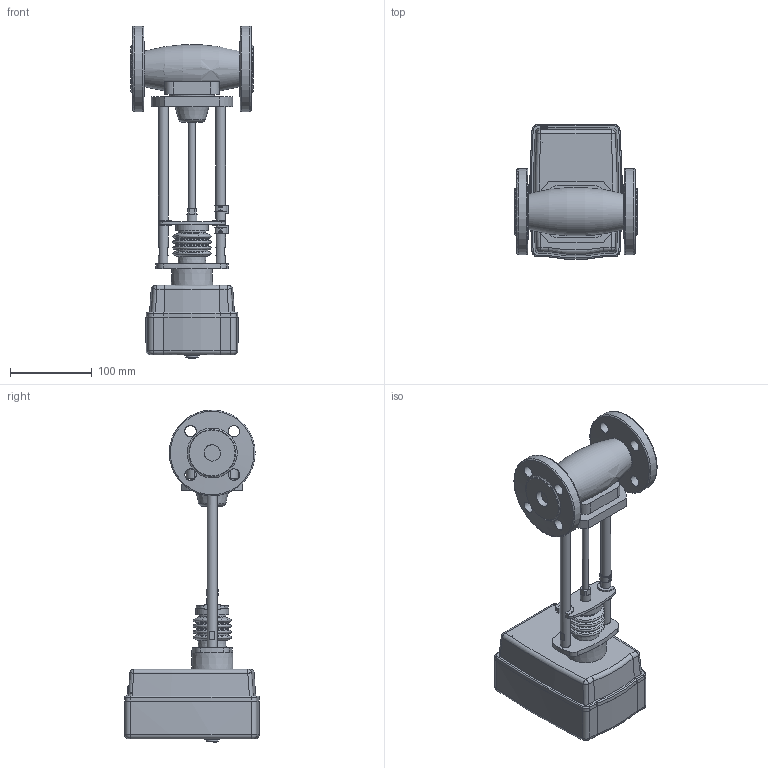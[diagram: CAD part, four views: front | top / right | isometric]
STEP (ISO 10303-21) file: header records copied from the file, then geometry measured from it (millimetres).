
FILE_DESCRIPTION(/* description */ ('Unknown'),/* implementation_level */ '2;1');
FILE_NAME(/* name */ 'Клапан TRV-P-020-101',/* time_stamp */ '2021-12-06T17:01:08+03:00',/* author */ ('Unknown'),/* organization */ ('Unknown'),/* preprocessor_version */ 'ST-DEVELOPER v16.7',/* originating_system */ 'DEX',/* authorisation */ $);
FILE_SCHEMA (('AUTOMOTIVE_DESIGN {1 0 10303 214 3 1 1}'));
Length unit declared in the file: millimetre
Products named in the file (1): 抔黽鳧 TRV-P-020-101
Bounding box: 150 x 164.51 x 405.9 mm (x, y, z)
Volume: 2271197.3 mm3; surface area: 198163.2 mm2
Topology: 1 solids, 1 shells, 322 faces, 839 edges, 529 vertices
Faces by surface type: plane 150, cylinder 75, torus 44, cone 29, bspline 20, sphere 4
Full cylindrical faces by diameter (mm): 8 x1, 12.002 x4, 13 x1, 14 x8, 15 x1, 33.4 x1, 33.972 x1, 40 x1, 54.226 x1, 105 x2
Entity records: 13710 total; most frequent: CARTESIAN_POINT 4046, DIRECTION 1533, ORIENTED_EDGE 1470, EDGE_CURVE 735, AXIS2_PLACEMENT_3D 603, VERTEX_POINT 491, EDGE_LOOP 422, FACE_BOUND 422
